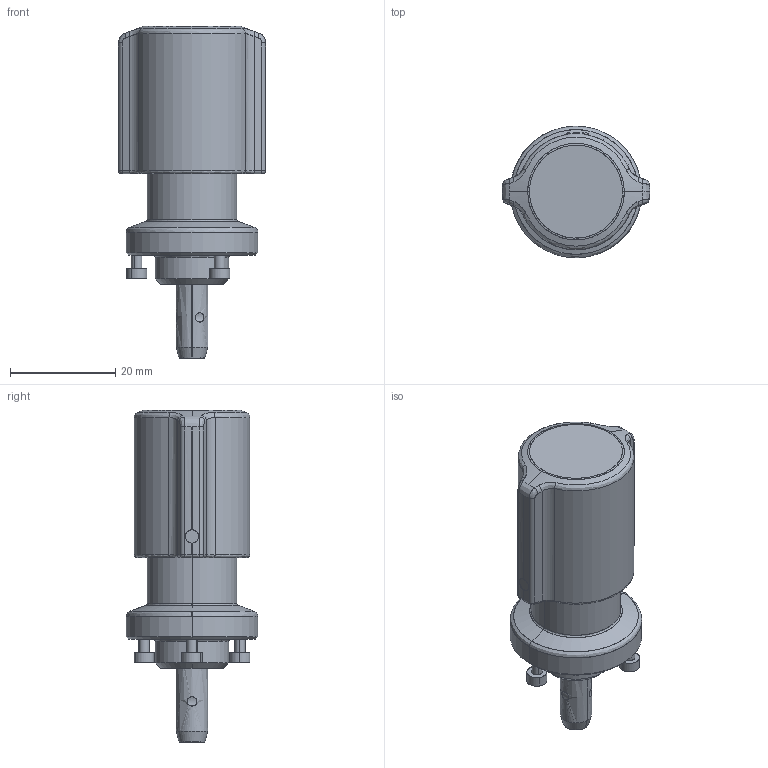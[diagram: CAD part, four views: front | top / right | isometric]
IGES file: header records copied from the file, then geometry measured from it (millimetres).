
Start section: SolidWorks IGES file using analytic representation for surfaces
Bounding box: 28 x 25 x 63 mm (x, y, z)
Surface area: 12016.6 mm2 (no closed solid volume)
Topology: 0 solids, 0 shells, 246 faces, 3205 edges, 3190 vertices
Faces by surface type: bspline 156, revolution 90
